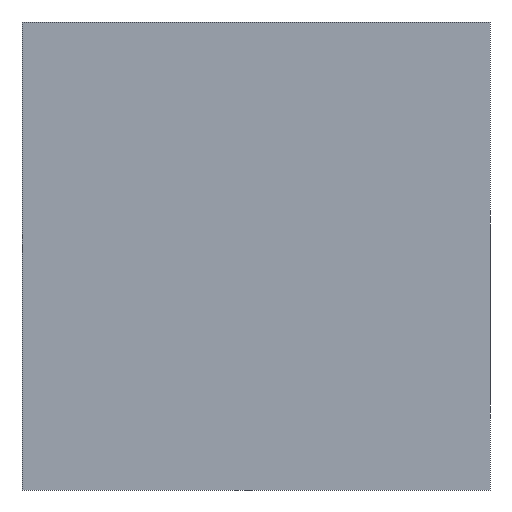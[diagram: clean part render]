
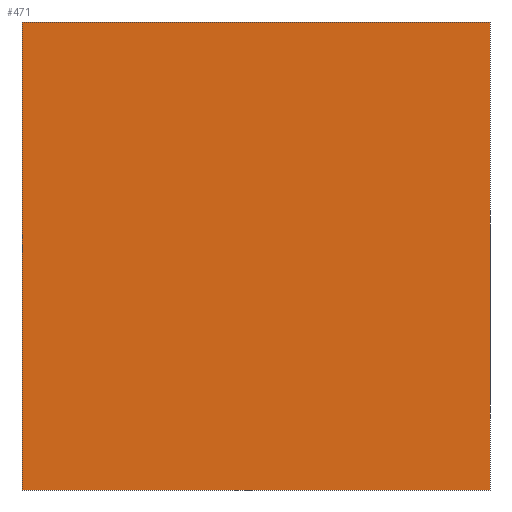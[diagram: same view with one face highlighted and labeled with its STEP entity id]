
A CAD part, front view. The second image highlights one B-rep face of the part: STEP entity #471.
In plain terms, the highlighted planar face has unit normal (0, -1, 0).
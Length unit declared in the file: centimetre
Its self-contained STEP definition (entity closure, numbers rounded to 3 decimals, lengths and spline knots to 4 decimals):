
#7 = VECTOR ( 'NONE', #79, 100. ) ;
#17 = CARTESIAN_POINT ( 'NONE',  ( 0., 0., 0. ) ) ;
#19 = EDGE_CURVE ( 'NONE', #608, #571, #279, .T. ) ;
#35 = FACE_OUTER_BOUND ( 'NONE', #303, .T. ) ;
#52 = ORIENTED_EDGE ( 'NONE', *, *, #448, .F. ) ;
#79 = DIRECTION ( 'NONE',  ( 1., 0., 0. ) ) ;
#88 = DIRECTION ( 'NONE',  ( 0., 1., 0. ) ) ;
#97 = CARTESIAN_POINT ( 'NONE',  ( 1000., 0., 1000. ) ) ;
#99 = ORIENTED_EDGE ( 'NONE', *, *, #530, .F. ) ;
#136 = CARTESIAN_POINT ( 'NONE',  ( 0., 0., 1000. ) ) ;
#189 = DIRECTION ( 'NONE',  ( 0., 0., 1. ) ) ;
#193 = VERTEX_POINT ( 'NONE', #618 ) ;
#198 = LINE ( 'NONE', #136, #7 ) ;
#212 = VERTEX_POINT ( 'NONE', #460 ) ;
#247 = DIRECTION ( 'NONE',  ( 0., 0., -1. ) ) ;
#278 = ORIENTED_EDGE ( 'NONE', *, *, #19, .T. ) ;
#279 = LINE ( 'NONE', #337, #408 ) ;
#303 = EDGE_LOOP ( 'NONE', ( #278, #99, #52, #578 ) ) ;
#306 = PLANE ( 'NONE',  #450 ) ;
#310 = DIRECTION ( 'NONE',  ( 0., 0., -1. ) ) ;
#337 = CARTESIAN_POINT ( 'NONE',  ( 0., 0., 0. ) ) ;
#388 = VECTOR ( 'NONE', #310, 100. ) ;
#395 = LINE ( 'NONE', #617, #598 ) ;
#408 = VECTOR ( 'NONE', #447, 100. ) ;
#432 = EDGE_CURVE ( 'NONE', #212, #608, #395, .T. ) ;
#447 = DIRECTION ( 'NONE',  ( 1., 0., 0. ) ) ;
#448 = EDGE_CURVE ( 'NONE', #212, #193, #198, .T. ) ;
#450 = AXIS2_PLACEMENT_3D ( 'NONE', #565, #88, #189 ) ;
#460 = CARTESIAN_POINT ( 'NONE',  ( 0., 0., 1000. ) ) ;
#471 = ADVANCED_FACE ( 'NONE', ( #35 ), #306, .F. ) ;
#530 = EDGE_CURVE ( 'NONE', #193, #571, #665, .T. ) ;
#563 = CARTESIAN_POINT ( 'NONE',  ( 1000., 0., 0. ) ) ;
#565 = CARTESIAN_POINT ( 'NONE',  ( 0., 0., 1000. ) ) ;
#571 = VERTEX_POINT ( 'NONE', #563 ) ;
#578 = ORIENTED_EDGE ( 'NONE', *, *, #432, .T. ) ;
#598 = VECTOR ( 'NONE', #247, 100. ) ;
#608 = VERTEX_POINT ( 'NONE', #17 ) ;
#617 = CARTESIAN_POINT ( 'NONE',  ( 0., 0., 1000. ) ) ;
#618 = CARTESIAN_POINT ( 'NONE',  ( 1000., 0., 1000. ) ) ;
#665 = LINE ( 'NONE', #97, #388 ) ;
